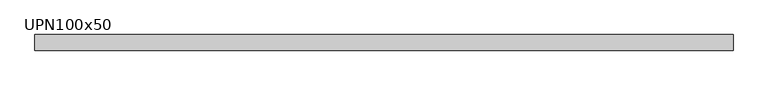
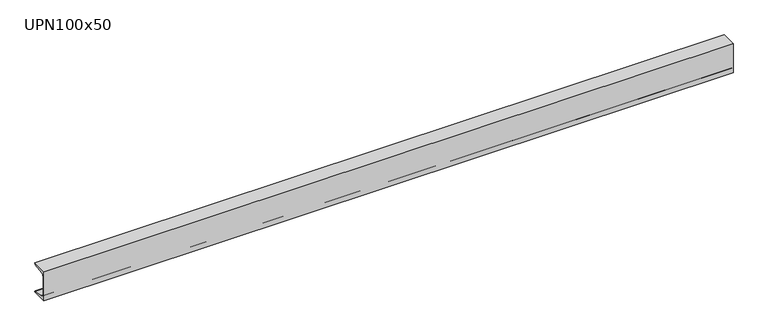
"""IFC4 building model written with IfcOpenShell, lengths in millimetres: beam geometry, M_MC Shapes : UPN100x50."""

from ifc_helpers import new_model, si_unit, point, frame, frame_2d, origin, place, context, project, spatial, polyline, circle_curve, trimmed, segment, composite_curve, outline, extrude, source, transform, mapped, element, save


def upn100x50_7fc6c248(model_context):
    return source(origin(), model_context, "Body", "SweptSolid", [
        extrude(outline(composite_curve([segment(polyline([(-10.9, 50.0), (39.1, 50.0), (39.1, 49.0253247)]), True, "CONTINUOUS"), segment(trimmed(circle_curve(frame_2d((35.15, 49.0253247)), 3.95), [point((39.1, 49.0253247))], [point((35.7993773, 45.1290689))], False, "CARTESIAN"), True, "CONTINUOUS"), segment(polyline([(35.7993773, 45.1290689), (0.2512455, 39.2043685)]), True, "CONTINUOUS"), segment(trimmed(circle_curve(frame_2d((1.55, 31.4118569)), 7.9), [point((0.2512455, 39.2043685))], [point((-6.35, 31.4118569))], True, "CARTESIAN"), True, "CONTINUOUS"), segment(polyline([(-6.35, 31.4118569), (-6.35, -31.4118569)]), True, "CONTINUOUS"), segment(trimmed(circle_curve(frame_2d((1.55, -31.4118569)), 7.9), [point((-6.35, -31.4118569))], [point((0.2512455, -39.2043685))], True, "CARTESIAN"), True, "CONTINUOUS"), segment(polyline([(0.2512455, -39.2043685), (35.7993773, -45.1290689)]), True, "CONTINUOUS"), segment(trimmed(circle_curve(frame_2d((35.15, -49.0253247)), 3.95), [point((35.7993773, -45.1290689))], [point((39.1, -49.0253247))], False, "CARTESIAN"), True, "CONTINUOUS"), segment(polyline([(39.1, -49.0253247), (39.1, -50.0), (-10.9, -50.0), (-10.9, 50.0)]), True, "CONTINUOUS")], self_intersect=False)), frame((-1085.45, 0.0, 0.0), z_axis=(1.0, 0.0, 0.0), x_axis=(0.0, 1.0, 0.0)), (0.0, 0.0, 1.0), 2231.3),
    ])


if __name__ == "__main__":
    model = new_model("IFC4")
    model_context = context("Model", 3, world=origin())
    ifc_project = project(units=[si_unit("LENGTHUNIT", "METRE", prefix="MILLI")], contexts=[model_context])
    site = spatial("IfcSite", under=ifc_project)
    building = spatial("IfcBuilding", under=site)
    placement = place(None, origin())
    upn100x50_shape = upn100x50_7fc6c248(model_context)
    element("IfcBeam", 1, ObjectType="M_MC Shapes : UPN100x50", at=placement, inside=building, context=model_context, shape_type="MappedRepresentation", body=[
        mapped(upn100x50_shape, transform((0.0, 0.0, 0.0), x_axis=(1.0, 0.0, 0.0), y_axis=(0.0, 1.0, 0.0), z_axis=(0.0, 0.0, 1.0))),
    ])
    save(model, "model.ifc")
